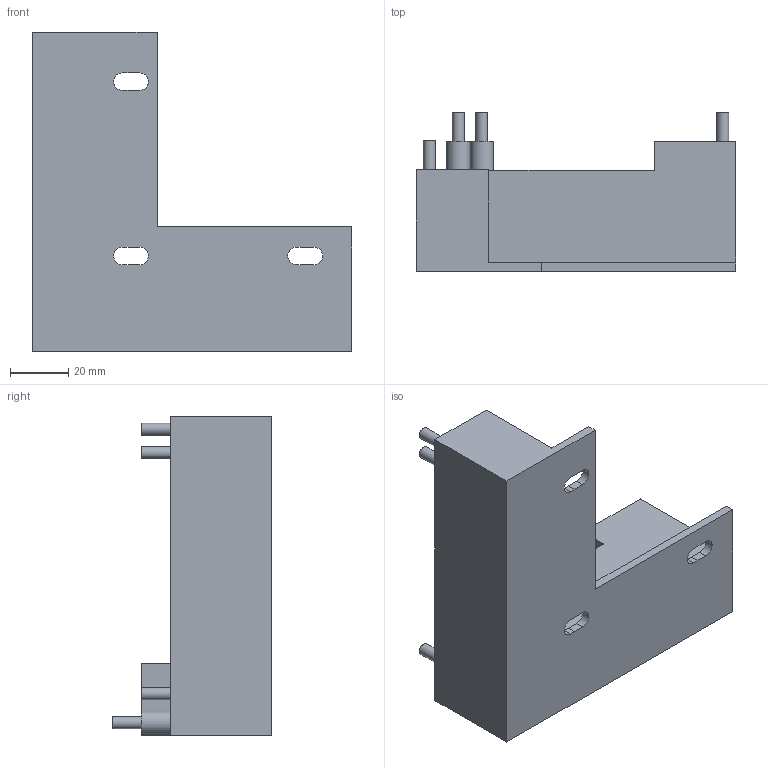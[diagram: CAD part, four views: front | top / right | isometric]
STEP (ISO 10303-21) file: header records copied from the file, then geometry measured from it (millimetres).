
FILE_DESCRIPTION(/* description */ (''),/* implementation_level */ '2;1');
FILE_NAME(/* name */ '/Users/davidflorian/Library/Mobile Documents/com~apple~CloudDocs/Vanderbilt/Papers/OTTO/Supplemental Material/3D-Printable-Components-STEP-Files/Balluff-Through-Beam-Sensors-Holder.step',/* time_stamp */ '2020-06-30T23:05:47-05:00',/* author */ (''),/* organization */ (''),/* preprocessor_version */ 'ST-DEVELOPER v18.1',/* originating_system */ 'Autodesk Translation Framework v9.3.0.1241',/* authorisation */ '');
FILE_SCHEMA (('AUTOMOTIVE_DESIGN { 1 0 10303 214 3 1 1 }'));
Length unit declared in the file: millimetre
Products named in the file (1): Balluff-Through-Beam-Sensor
Bounding box: 110 x 55 x 110 mm (x, y, z)
Volume: 187071.4 mm3; surface area: 32858.9 mm2
Topology: 1 solids, 1 shells, 49 faces, 117 edges, 76 vertices
Faces by surface type: plane 33, cylinder 16
Full cylindrical faces by diameter (mm): 4.15 x6, 8 x1
Entity records: 1462 total; most frequent: DIRECTION 249, CARTESIAN_POINT 243, ORIENTED_EDGE 234, EDGE_CURVE 117, LINE 85, VECTOR 85, AXIS2_PLACEMENT_3D 82, VERTEX_POINT 76
